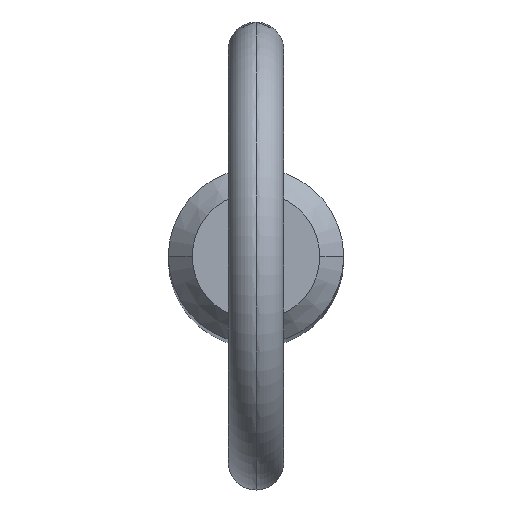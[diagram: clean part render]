
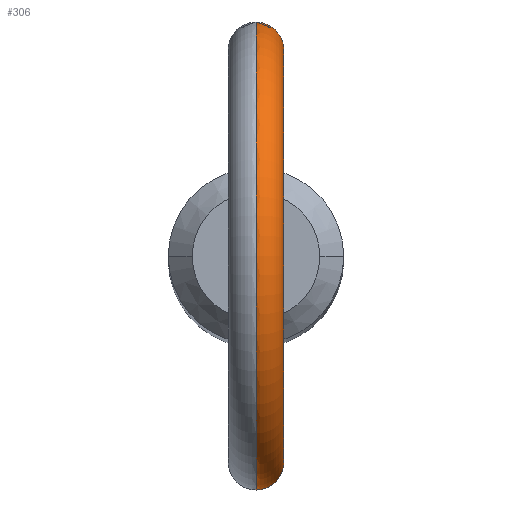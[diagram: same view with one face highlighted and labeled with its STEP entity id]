
A CAD part, top view. The second image highlights one B-rep face of the part: STEP entity #306.
In plain terms, the highlighted toroidal (fillet/blend) face has major radius 11.2 mm and minor radius 1.5 mm.
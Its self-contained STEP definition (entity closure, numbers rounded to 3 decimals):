
#3 = CARTESIAN_POINT ( 'NONE',  ( 0.968, 4.663, 100.349 ) ) ;
#12 = CARTESIAN_POINT ( 'NONE',  ( 0.996, 4.655, 102.866 ) ) ;
#13 = EDGE_CURVE ( 'NONE', #433, #118, #215, .T. ) ;
#14 = EDGE_LOOP ( 'NONE', ( #352, #495, #520, #111 ) ) ;
#31 = CARTESIAN_POINT ( 'NONE',  ( 0.997, -4.655, 102.864 ) ) ;
#35 = CARTESIAN_POINT ( 'NONE',  ( 0.411, -4.743, 100.077 ) ) ;
#51 = CARTESIAN_POINT ( 'NONE',  ( 0.411, 4.743, 100.077 ) ) ;
#52 = CARTESIAN_POINT ( 'NONE',  ( 1.292, 4.582, 102.444 ) ) ;
#55 = CARTESIAN_POINT ( 'NONE',  ( 0.925, 4.67, 102.94 ) ) ;
#64 = TOROIDAL_SURFACE ( 'NONE', #383, 11.2, 1.5 ) ;
#68 = CARTESIAN_POINT ( 'NONE',  ( 0., 4.76, 103.348 ) ) ;
#69 = CARTESIAN_POINT ( 'NONE',  ( 1.404, -4.548, 102.153 ) ) ;
#74 = CARTESIAN_POINT ( 'NONE',  ( 0.512, -4.733, 100.108 ) ) ;
#76 = CARTESIAN_POINT ( 'NONE',  ( 1.434, -4.539, 102.054 ) ) ;
#77 = CARTESIAN_POINT ( 'NONE',  ( 0., 4.76, 100.026 ) ) ;
#88 = CARTESIAN_POINT ( 'NONE',  ( 0.511, 4.733, 100.108 ) ) ;
#102 = CARTESIAN_POINT ( 'NONE',  ( 0., -4.76, 103.348 ) ) ;
#105 = CARTESIAN_POINT ( 'NONE',  ( 0., -4.76, 103.348 ) ) ;
#106 = DIRECTION ( 'NONE',  ( 1., 0., 0. ) ) ;
#111 = ORIENTED_EDGE ( 'NONE', *, *, #454, .F. ) ;
#115 = CARTESIAN_POINT ( 'NONE',  ( 1.473, -4.526, 101.231 ) ) ;
#118 = VERTEX_POINT ( 'NONE', #342 ) ;
#121 = CARTESIAN_POINT ( 'NONE',  ( 0.208, -4.757, 100.036 ) ) ;
#139 = CARTESIAN_POINT ( 'NONE',  ( 1.508, 4.515, 101.437 ) ) ;
#148 = CARTESIAN_POINT ( 'NONE',  ( 0.409, -4.743, 103.278 ) ) ;
#158 = CARTESIAN_POINT ( 'NONE',  ( 1.293, -4.582, 102.442 ) ) ;
#180 = CARTESIAN_POINT ( 'NONE',  ( 0.771, 4.698, 103.075 ) ) ;
#181 = EDGE_CURVE ( 'NONE', #385, #502, #519, .T. ) ;
#187 = CARTESIAN_POINT ( 'NONE',  ( 1.441, 4.537, 102.059 ) ) ;
#188 = CARTESIAN_POINT ( 'NONE',  ( 0., 0., 111.8 ) ) ;
#194 = CARTESIAN_POINT ( 'NONE',  ( 0., 0., 111.8 ) ) ;
#206 = CARTESIAN_POINT ( 'NONE',  ( 1.344, -4.567, 100.839 ) ) ;
#210 = CARTESIAN_POINT ( 'NONE',  ( 0.925, -4.67, 102.939 ) ) ;
#215 = B_SPLINE_CURVE_WITH_KNOTS ( 'NONE', 3,
 ( #102, #357, #392, #148, #280, #293, #524, #210, #31, #404, #158, #69, #76, #479, #477, #406, #329, #115, #441, #322, #206, #247, #518, #438, #527, #74, #35, #121, #362, #440 ),
 .UNSPECIFIED., .F., .F.,
 ( 4, 2, 2, 2, 2, 2, 2, 2, 2, 2, 2, 2, 2, 2, 4 ),
 ( 0.004, 0.005, 0.005, 0.005, 0.006, 0.006, 0.007, 0.007, 0.007, 0.007, 0.008, 0.008, 0.009, 0.009, 0.009 ),
 .UNSPECIFIED. ) ;
#225 = CARTESIAN_POINT ( 'NONE',  ( 1.385, 4.554, 100.93 ) ) ;
#230 = CARTESIAN_POINT ( 'NONE',  ( 0.208, 4.76, 103.348 ) ) ;
#231 = CARTESIAN_POINT ( 'NONE',  ( 1.188, 4.611, 102.627 ) ) ;
#232 = CARTESIAN_POINT ( 'NONE',  ( 1.484, 4.523, 101.228 ) ) ;
#240 = CARTESIAN_POINT ( 'NONE',  ( 0., 4.76, 100.026 ) ) ;
#242 = DIRECTION ( 'NONE',  ( 0., 0., -1. ) ) ;
#247 = CARTESIAN_POINT ( 'NONE',  ( 1.24, -4.596, 100.66 ) ) ;
#269 = CARTESIAN_POINT ( 'NONE',  ( 1.343, 4.567, 100.837 ) ) ;
#280 = CARTESIAN_POINT ( 'NONE',  ( 0.506, -4.734, 103.237 ) ) ;
#293 = CARTESIAN_POINT ( 'NONE',  ( 0.687, -4.711, 103.135 ) ) ;
#303 = CIRCLE ( 'NONE', #395, 9.7 ) ;
#306 = ADVANCED_FACE ( 'NONE', ( #507 ), #64, .T. ) ;
#307 = CARTESIAN_POINT ( 'NONE',  ( 0., 4.76, 103.348 ) ) ;
#310 = CARTESIAN_POINT ( 'NONE',  ( 0.685, 4.711, 103.136 ) ) ;
#313 = DIRECTION ( 'NONE',  ( 0., 0., -1. ) ) ;
#322 = CARTESIAN_POINT ( 'NONE',  ( 1.385, -4.554, 100.932 ) ) ;
#329 = CARTESIAN_POINT ( 'NONE',  ( 1.499, -4.518, 101.437 ) ) ;
#342 = CARTESIAN_POINT ( 'NONE',  ( 0., -4.76, 100.026 ) ) ;
#344 = CARTESIAN_POINT ( 'NONE',  ( 1.239, 4.596, 100.659 ) ) ;
#348 = CARTESIAN_POINT ( 'NONE',  ( 1.487, 4.522, 101.853 ) ) ;
#352 = ORIENTED_EDGE ( 'NONE', *, *, #181, .F. ) ;
#353 = EDGE_CURVE ( 'NONE', #385, #118, #465, .T. ) ;
#357 = CARTESIAN_POINT ( 'NONE',  ( 0.104, -4.76, 103.348 ) ) ;
#361 = DIRECTION ( 'NONE',  ( 1., 0., 0. ) ) ;
#362 = CARTESIAN_POINT ( 'NONE',  ( 0.105, -4.76, 100.026 ) ) ;
#363 = CARTESIAN_POINT ( 'NONE',  ( 0., 0., 111.8 ) ) ;
#383 = AXIS2_PLACEMENT_3D ( 'NONE', #188, #505, #313 ) ;
#385 = VERTEX_POINT ( 'NONE', #240 ) ;
#392 = CARTESIAN_POINT ( 'NONE',  ( 0.209, -4.756, 103.334 ) ) ;
#395 = AXIS2_PLACEMENT_3D ( 'NONE', #363, #106, #242 ) ;
#404 = CARTESIAN_POINT ( 'NONE',  ( 1.19, -4.611, 102.624 ) ) ;
#406 = CARTESIAN_POINT ( 'NONE',  ( 1.503, -4.517, 101.54 ) ) ;
#433 = VERTEX_POINT ( 'NONE', #105 ) ;
#438 = CARTESIAN_POINT ( 'NONE',  ( 0.97, -4.662, 100.35 ) ) ;
#440 = CARTESIAN_POINT ( 'NONE',  ( 0., -4.76, 100.026 ) ) ;
#441 = CARTESIAN_POINT ( 'NONE',  ( 1.45, -4.534, 101.128 ) ) ;
#454 = EDGE_CURVE ( 'NONE', #502, #433, #303, .T. ) ;
#455 = CARTESIAN_POINT ( 'NONE',  ( 0.104, 4.76, 100.026 ) ) ;
#461 = CARTESIAN_POINT ( 'NONE',  ( 1.177, 4.613, 100.575 ) ) ;
#465 = CIRCLE ( 'NONE', #512, 12.7 ) ;
#475 = DIRECTION ( 'NONE',  ( 0., 0., -1. ) ) ;
#477 = CARTESIAN_POINT ( 'NONE',  ( 1.492, -4.52, 101.748 ) ) ;
#479 = CARTESIAN_POINT ( 'NONE',  ( 1.478, -4.525, 101.852 ) ) ;
#491 = CARTESIAN_POINT ( 'NONE',  ( 0.207, 4.757, 100.036 ) ) ;
#494 = CARTESIAN_POINT ( 'NONE',  ( 0.795, 4.697, 100.228 ) ) ;
#495 = ORIENTED_EDGE ( 'NONE', *, *, #353, .T. ) ;
#496 = CARTESIAN_POINT ( 'NONE',  ( 0.415, 4.745, 103.288 ) ) ;
#502 = VERTEX_POINT ( 'NONE', #68 ) ;
#505 = DIRECTION ( 'NONE',  ( 1., 0., 0. ) ) ;
#507 = FACE_OUTER_BOUND ( 'NONE', #14, .T. ) ;
#512 = AXIS2_PLACEMENT_3D ( 'NONE', #194, #361, #475 ) ;
#518 = CARTESIAN_POINT ( 'NONE',  ( 1.178, -4.613, 100.576 ) ) ;
#519 = B_SPLINE_CURVE_WITH_KNOTS ( 'NONE', 3,
 ( #77, #455, #491, #51, #88, #494, #3, #461, #344, #269, #225, #232, #139, #348, #187, #52, #231, #12, #55, #180, #310, #496, #230, #307 ),
 .UNSPECIFIED., .F., .F.,
 ( 4, 2, 2, 2, 2, 2, 2, 2, 2, 2, 2, 4 ),
 ( 0.001, 0.001, 0.001, 0.002, 0.002, 0.002, 0.003, 0.004, 0.004, 0.005, 0.005, 0.006 ),
 .UNSPECIFIED. ) ;
#520 = ORIENTED_EDGE ( 'NONE', *, *, #13, .F. ) ;
#524 = CARTESIAN_POINT ( 'NONE',  ( 0.77, -4.698, 103.075 ) ) ;
#527 = CARTESIAN_POINT ( 'NONE',  ( 0.797, -4.697, 100.229 ) ) ;
